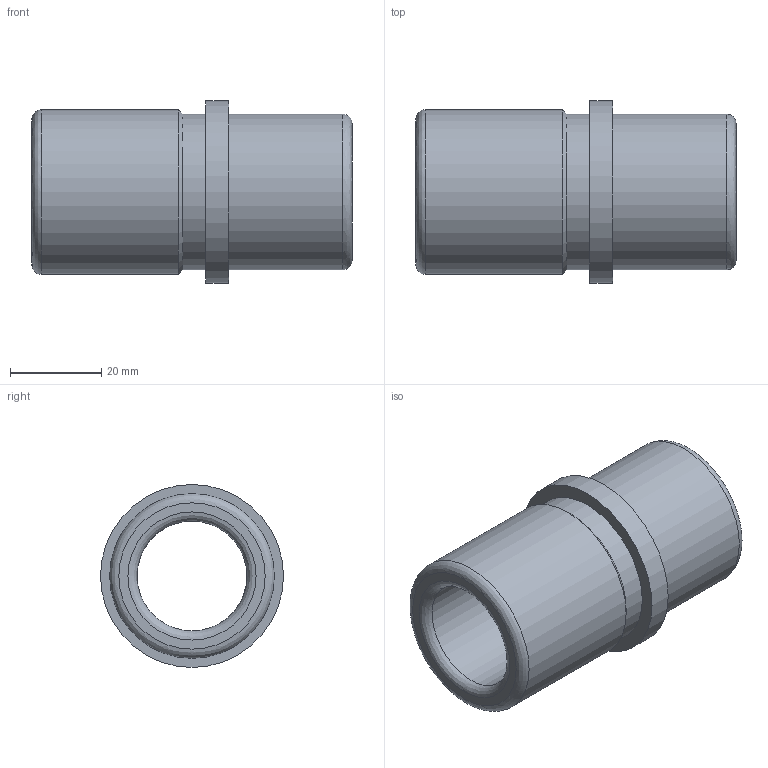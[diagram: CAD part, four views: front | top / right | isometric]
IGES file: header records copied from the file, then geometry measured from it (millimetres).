
Start section: Data from Parasolid IGES Translator 20.0.26, Copyright(c) 2006 Siemens P LM Software. All Rights Reserved.
Global section: file name: WZ - 4053 18 x 70 - 24.igs; native system: By Siemens PLM Incorporated; preprocessor: XPlus GENERIC/IGES 20.0.26; author: Noname; organization: Noname; date: 20201204.210157; units: millimetre
Bounding box: 70 x 40 x 40 mm (x, y, z)
Surface area: 14499.1 mm2 (no closed solid volume)
Topology: 0 solids, 0 shells, 14 faces, 52 edges, 38 vertices
Faces by surface type: revolution 10, extrusion 4
